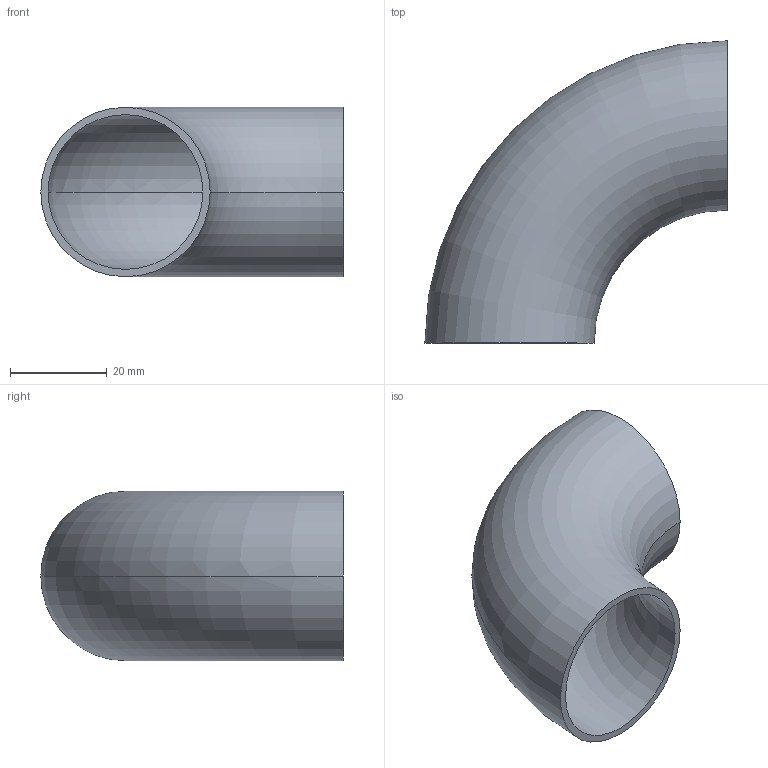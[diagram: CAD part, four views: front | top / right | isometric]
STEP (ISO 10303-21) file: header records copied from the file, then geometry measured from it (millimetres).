
FILE_DESCRIPTION (( 'STEP AP203' ), '1' );
FILE_NAME ('OT212-32-35x1_5_OSTP.step', '2020-12-16T01:48:06', ( '' ), ( '' ), 'SwSTEP 2.0', 'SolidWorks 2014', '' );
FILE_SCHEMA (( 'CONFIG_CONTROL_DESIGN' ));
Length unit declared in the file: millimetre
Products named in the file (1): OT212-32-35x1_5_OSTP
Bounding box: 62.5 x 62.5 x 35 mm (x, y, z)
Volume: 11158.8 mm3; surface area: 15194.2 mm2
Topology: 1 solids, 1 shells, 6 faces, 12 edges, 8 vertices
Faces by surface type: torus 4, plane 2
Entity records: 249 total; most frequent: DIRECTION 38, CARTESIAN_POINT 27, ORIENTED_EDGE 24, AXIS2_PLACEMENT_3D 19, CIRCLE 12, EDGE_CURVE 12, PERSON_AND_ORGANIZATION 8, EDGE_LOOP 8
